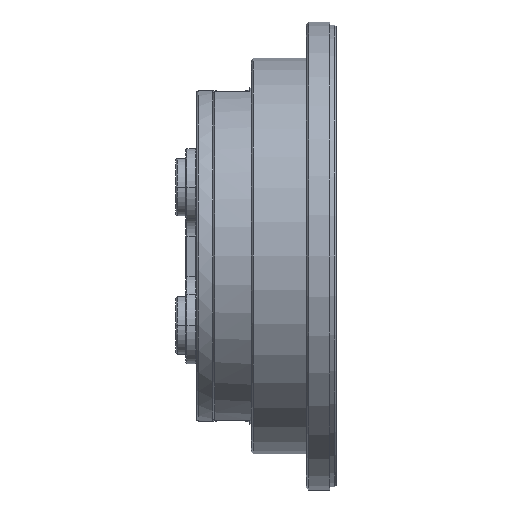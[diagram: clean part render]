
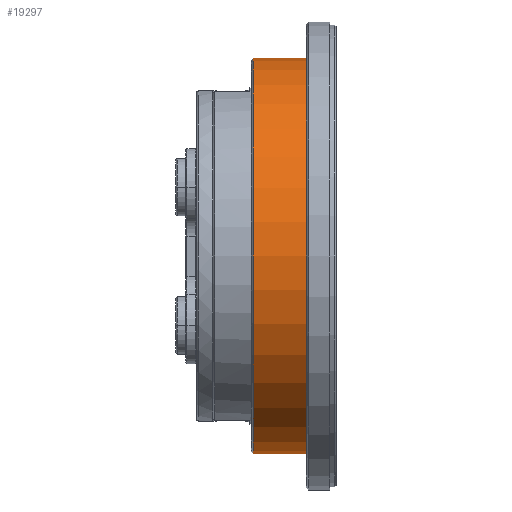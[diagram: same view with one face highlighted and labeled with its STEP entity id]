
A CAD part, left-side view. The second image highlights one B-rep face of the part: STEP entity #19297.
In plain terms, the highlighted cylindrical face has radius 46.5 mm (diameter 93 mm), a partial arc.
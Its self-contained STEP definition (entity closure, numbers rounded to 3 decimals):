
#334 = CIRCLE ( 'NONE', #18143, 46.5 ) ;
#508 = CARTESIAN_POINT ( 'NONE',  ( -9.539, 5.526, 156.5 ) ) ;
#941 = CARTESIAN_POINT ( 'NONE',  ( -9.539, -147.896, 63.5 ) ) ;
#2498 = ORIENTED_EDGE ( 'NONE', *, *, #14256, .T. ) ;
#2787 = ORIENTED_EDGE ( 'NONE', *, *, #7719, .T. ) ;
#2809 = CARTESIAN_POINT ( 'NONE',  ( -9.539, 5.526, 63.5 ) ) ;
#2910 = VECTOR ( 'NONE', #28015, 1000. ) ;
#3501 = VECTOR ( 'NONE', #4238, 1000. ) ;
#3778 = CARTESIAN_POINT ( 'NONE',  ( -9.539, -6.974, 156.5 ) ) ;
#4238 = DIRECTION ( 'NONE',  ( 0., 1., 0. ) ) ;
#4260 = VERTEX_POINT ( 'NONE', #15893 ) ;
#6080 = DIRECTION ( 'NONE',  ( 0., 0., 1. ) ) ;
#6145 = CYLINDRICAL_SURFACE ( 'NONE', #10583, 46.5 ) ;
#7719 = EDGE_CURVE ( 'NONE', #4260, #11943, #12405, .T. ) ;
#8231 = DIRECTION ( 'NONE',  ( 0., 1., 0. ) ) ;
#8965 = LINE ( 'NONE', #941, #2910 ) ;
#9535 = LINE ( 'NONE', #17628, #3501 ) ;
#9874 = VERTEX_POINT ( 'NONE', #508 ) ;
#10006 = DIRECTION ( 'NONE',  ( 0., 0., 1. ) ) ;
#10583 = AXIS2_PLACEMENT_3D ( 'NONE', #17187, #8231, #6080 ) ;
#11943 = VERTEX_POINT ( 'NONE', #3778 ) ;
#12170 = AXIS2_PLACEMENT_3D ( 'NONE', #20945, #25480, #16343 ) ;
#12405 = CIRCLE ( 'NONE', #12170, 46.5 ) ;
#13403 = VERTEX_POINT ( 'NONE', #2809 ) ;
#14256 = EDGE_CURVE ( 'NONE', #9874, #13403, #334, .T. ) ;
#15893 = CARTESIAN_POINT ( 'NONE',  ( -9.539, -6.974, 63.5 ) ) ;
#16343 = DIRECTION ( 'NONE',  ( 0., 0., -1. ) ) ;
#17187 = CARTESIAN_POINT ( 'NONE',  ( -9.539, -147.896, 110. ) ) ;
#17204 = FACE_OUTER_BOUND ( 'NONE', #25496, .T. ) ;
#17628 = CARTESIAN_POINT ( 'NONE',  ( -9.539, -147.896, 156.5 ) ) ;
#18143 = AXIS2_PLACEMENT_3D ( 'NONE', #23713, #25694, #10006 ) ;
#19297 = ADVANCED_FACE ( 'NONE', ( #17204 ), #6145, .T. ) ;
#20586 = ORIENTED_EDGE ( 'NONE', *, *, #22051, .F. ) ;
#20945 = CARTESIAN_POINT ( 'NONE',  ( -9.539, -6.974, 110. ) ) ;
#22051 = EDGE_CURVE ( 'NONE', #4260, #13403, #8965, .T. ) ;
#23605 = ORIENTED_EDGE ( 'NONE', *, *, #24235, .T. ) ;
#23713 = CARTESIAN_POINT ( 'NONE',  ( -9.539, 5.526, 110. ) ) ;
#24235 = EDGE_CURVE ( 'NONE', #11943, #9874, #9535, .T. ) ;
#25480 = DIRECTION ( 'NONE',  ( 0., 1., 0. ) ) ;
#25496 = EDGE_LOOP ( 'NONE', ( #20586, #2787, #23605, #2498 ) ) ;
#25694 = DIRECTION ( 'NONE',  ( 0., -1., 0. ) ) ;
#28015 = DIRECTION ( 'NONE',  ( 0., 1., 0. ) ) ;
